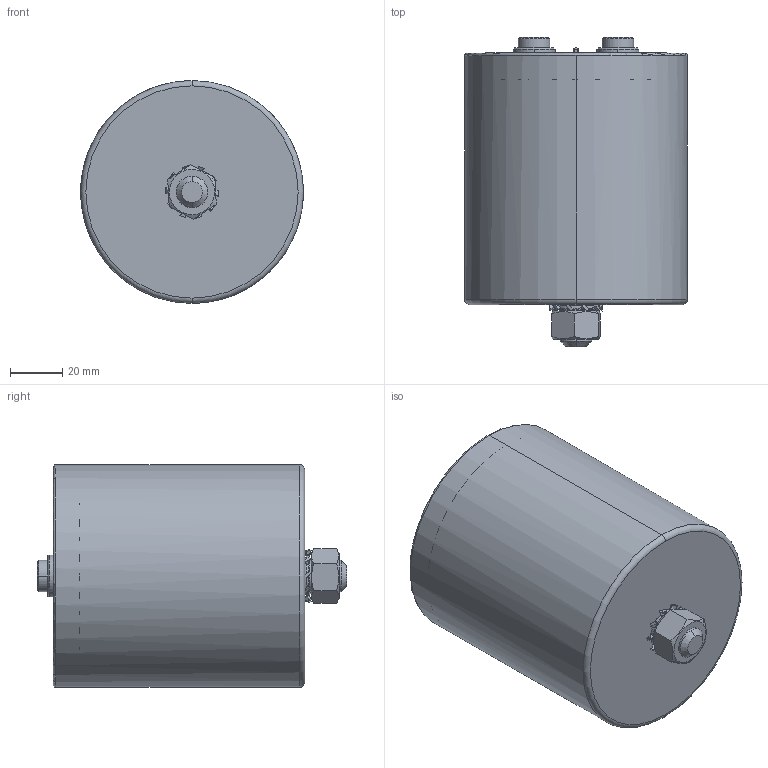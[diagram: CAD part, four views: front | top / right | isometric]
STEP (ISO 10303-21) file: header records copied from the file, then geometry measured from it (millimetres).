
FILE_DESCRIPTION (( 'STEP AP214' ), '1' );
FILE_NAME ('B25696 Series D85Hc96Ht102.STEP', '2025-03-20T05:32:46', ( '' ), ( '' ), 'SwSTEP 2.0', 'SolidWorks 2019', '' );
FILE_SCHEMA (( 'AUTOMOTIVE_DESIGN' ));
Length unit declared in the file: millimetre
Products named in the file (1): B25696 Series D85Hc96Ht102
Bounding box: 85 x 118 x 85 mm (x, y, z)
Volume: 106071 mm3; surface area: 88315.2 mm2
Topology: 1 solids, 2 shells, 275 faces, 754 edges, 488 vertices
Faces by surface type: plane 88, cylinder 70, cone 47, bspline 40, torus 30
Entity records: 9636 total; most frequent: CARTESIAN_POINT 3070, ORIENTED_EDGE 1500, DIRECTION 1212, EDGE_CURVE 750, VERTEX_POINT 488, AXIS2_PLACEMENT_3D 472, EDGE_LOOP 304, ADVANCED_FACE 275
